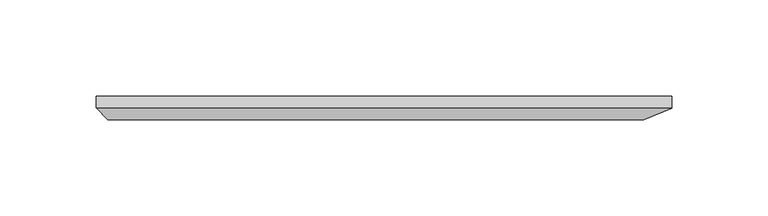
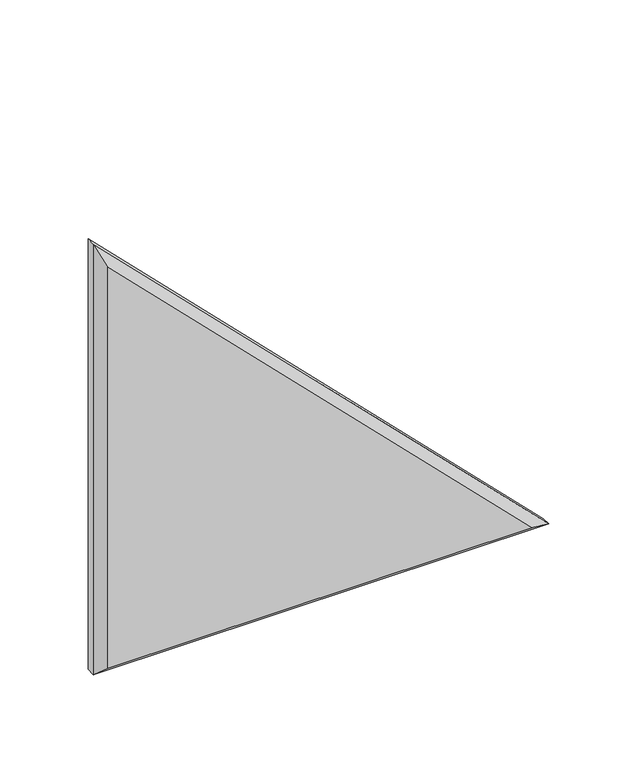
"""IFC4 building model written with IfcOpenShell, lengths in millimetres: proxy geometry, Wall_Akebia 2.3dm."""

from ifc_helpers import new_model, si_unit, origin, place, context, project, spatial, faceted_brep, source, transform, mapped, element, save


def generic_models_7e0eabd6(model_context):
    return source(origin(), model_context, "Body", "Brep", [
        faceted_brep([(1193.7965843, -88.0, 1257.7476625), (1193.7965843, -88.0, 1556.1976625), (1492.2465843, -88.0, 1257.7476625), (1193.7965843, -94.0, 1257.7476625), (1193.7965843, -94.0, 1556.1976625), (1492.2465843, -94.0, 1257.7476625), (1477.761303, -100.0, 1263.7476625), (1199.7965843, -100.0, 1541.7123811), (1199.7965843, -100.0, 1263.7476625)], [[[0, 1, 2]], [[3, 4, 1, 0]], [[4, 5, 2, 1]], [[5, 3, 0, 2]], [[6, 7, 8]], [[3, 8, 7, 4]], [[4, 7, 6, 5]], [[5, 6, 8, 3]]]),
    ])


if __name__ == "__main__":
    model = new_model("IFC4")
    model_context = context("Model", 3, world=origin())
    ifc_project = project(units=[si_unit("LENGTHUNIT", "METRE", prefix="MILLI")], contexts=[model_context])
    site = spatial("IfcSite", under=ifc_project)
    building = spatial("IfcBuilding", under=site)
    placement = place(None, origin())
    generic_models_shape = generic_models_7e0eabd6(model_context)
    element("IfcBuildingElementProxy", 1, Name="Wall_Akebia 2.3dm", ObjectType="Wall_Akebia 2.3dm", at=placement, inside=building, context=model_context, shape_type="MappedRepresentation", body=[
        mapped(generic_models_shape, transform((0.0, 0.0, 0.0), x_axis=(1.0, 0.0, 0.0), y_axis=(0.0, 1.0, 0.0), z_axis=(0.0, 0.0, 1.0))),
    ])
    save(model, "model.ifc")
